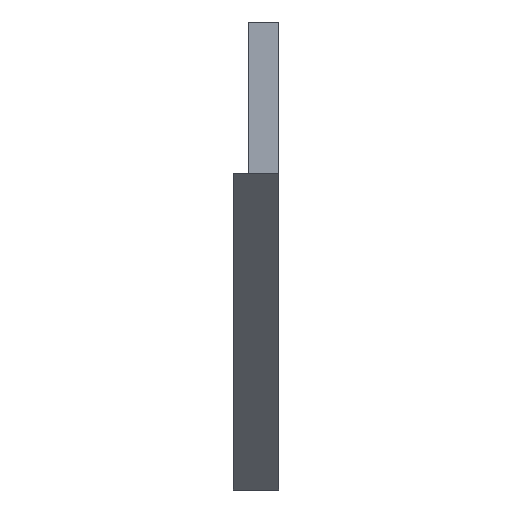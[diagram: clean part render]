
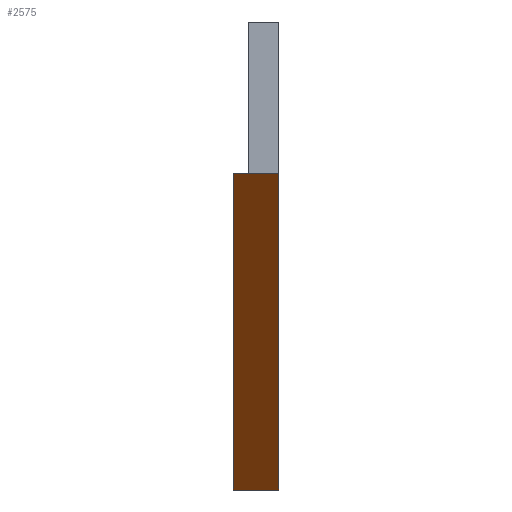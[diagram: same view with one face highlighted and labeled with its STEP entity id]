
A CAD part, front view. The second image highlights one B-rep face of the part: STEP entity #2575.
In plain terms, the highlighted planar face has unit normal (0, -0.719, -0.695).
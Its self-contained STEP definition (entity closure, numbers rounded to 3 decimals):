
#60 = CARTESIAN_POINT ( 'NONE',  ( 21., 101.209, -163.776 ) ) ;
#65 = VERTEX_POINT ( 'NONE', #993 ) ;
#94 = VECTOR ( 'NONE', #2072, 1000. ) ;
#106 = EDGE_CURVE ( 'NONE', #366, #65, #1073, .T. ) ;
#173 = ORIENTED_EDGE ( 'NONE', *, *, #1503, .T. ) ;
#302 = DIRECTION ( 'NONE',  ( 0., -0.695, 0.719 ) ) ;
#303 = DIRECTION ( 'NONE',  ( 0., 0.695, -0.719 ) ) ;
#305 = FACE_OUTER_BOUND ( 'NONE', #902, .T. ) ;
#366 = VERTEX_POINT ( 'NONE', #856 ) ;
#438 = LINE ( 'NONE', #1280, #2041 ) ;
#514 = EDGE_CURVE ( 'NONE', #1134, #994, #1318, .T. ) ;
#557 = VECTOR ( 'NONE', #1607, 1000. ) ;
#599 = CARTESIAN_POINT ( 'NONE',  ( 21., 101.209, -163.776 ) ) ;
#685 = ORIENTED_EDGE ( 'NONE', *, *, #1599, .F. ) ;
#856 = CARTESIAN_POINT ( 'NONE',  ( 6., 0., -59. ) ) ;
#892 = CARTESIAN_POINT ( 'NONE',  ( 0., 0., -59. ) ) ;
#902 = EDGE_LOOP ( 'NONE', ( #173, #1702, #2117, #685, #1795 ) ) ;
#911 = CARTESIAN_POINT ( 'NONE',  ( 21., -29.482, -28.479 ) ) ;
#946 = VECTOR ( 'NONE', #1906, 1000. ) ;
#993 = CARTESIAN_POINT ( 'NONE',  ( 11., 0., -59. ) ) ;
#994 = VERTEX_POINT ( 'NONE', #1270 ) ;
#1073 = LINE ( 'NONE', #1397, #557 ) ;
#1096 = PLANE ( 'NONE',  #2412 ) ;
#1109 = DIRECTION ( 'NONE',  ( 0., -0.719, -0.695 ) ) ;
#1134 = VERTEX_POINT ( 'NONE', #599 ) ;
#1270 = CARTESIAN_POINT ( 'NONE',  ( 21., 0., -59. ) ) ;
#1280 = CARTESIAN_POINT ( 'NONE',  ( 6., -29.482, -28.479 ) ) ;
#1318 = LINE ( 'NONE', #1700, #1738 ) ;
#1397 = CARTESIAN_POINT ( 'NONE',  ( 0., 0., -59. ) ) ;
#1503 = EDGE_CURVE ( 'NONE', #994, #65, #2016, .T. ) ;
#1599 = EDGE_CURVE ( 'NONE', #1134, #2208, #1698, .T. ) ;
#1607 = DIRECTION ( 'NONE',  ( 1., 0., 0. ) ) ;
#1698 = LINE ( 'NONE', #60, #94 ) ;
#1700 = CARTESIAN_POINT ( 'NONE',  ( 21., -29.482, -28.479 ) ) ;
#1702 = ORIENTED_EDGE ( 'NONE', *, *, #106, .F. ) ;
#1724 = EDGE_CURVE ( 'NONE', #366, #2208, #438, .T. ) ;
#1738 = VECTOR ( 'NONE', #302, 1000. ) ;
#1795 = ORIENTED_EDGE ( 'NONE', *, *, #514, .T. ) ;
#1906 = DIRECTION ( 'NONE',  ( -1., 0., 0. ) ) ;
#2016 = LINE ( 'NONE', #892, #946 ) ;
#2041 = VECTOR ( 'NONE', #303, 1000. ) ;
#2072 = DIRECTION ( 'NONE',  ( -1., 0., 0. ) ) ;
#2117 = ORIENTED_EDGE ( 'NONE', *, *, #1724, .T. ) ;
#2208 = VERTEX_POINT ( 'NONE', #2566 ) ;
#2412 = AXIS2_PLACEMENT_3D ( 'NONE', #911, #1109, #2535 ) ;
#2535 = DIRECTION ( 'NONE',  ( 0., 0.695, -0.719 ) ) ;
#2566 = CARTESIAN_POINT ( 'NONE',  ( 6., 101.209, -163.776 ) ) ;
#2575 = ADVANCED_FACE ( 'NONE', ( #305 ), #1096, .T. ) ;
